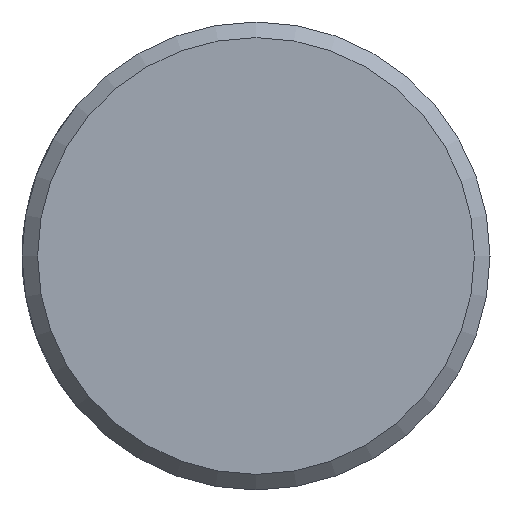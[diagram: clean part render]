
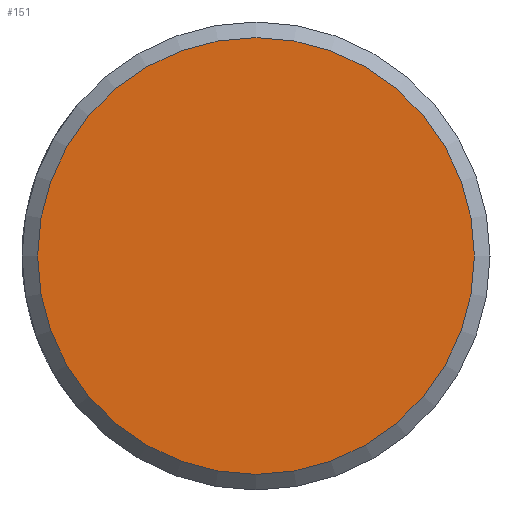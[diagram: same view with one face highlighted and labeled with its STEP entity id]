
A CAD part, left-side view. The second image highlights one B-rep face of the part: STEP entity #151.
In plain terms, the highlighted planar face has unit normal (-1, 0, 0).
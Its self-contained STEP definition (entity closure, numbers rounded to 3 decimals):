
#32=FACE_OUTER_BOUND('',#42,.T.);
#42=EDGE_LOOP('',(#122));
#68=CIRCLE('',#189,2.8);
#80=VERTEX_POINT('',#314);
#97=EDGE_CURVE('',#80,#80,#68,.T.);
#122=ORIENTED_EDGE('',*,*,#97,.F.);
#143=PLANE('',#188);
#151=ADVANCED_FACE('',(#32),#143,.T.);
#188=AXIS2_PLACEMENT_3D('',#313,#224,#225);
#189=AXIS2_PLACEMENT_3D('',#315,#226,#227);
#224=DIRECTION('center_axis',(-1.,0.,0.));
#225=DIRECTION('ref_axis',(0.,0.,1.));
#226=DIRECTION('center_axis',(1.,0.,0.));
#227=DIRECTION('ref_axis',(0.,0.,-1.));
#313=CARTESIAN_POINT('Origin',(-30.,2.8,0.));
#314=CARTESIAN_POINT('',(-30.,-2.8,0.));
#315=CARTESIAN_POINT('Origin',(-30.,0.,0.));
